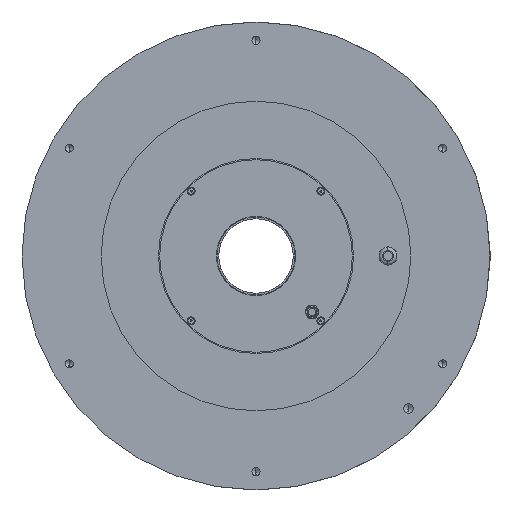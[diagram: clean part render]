
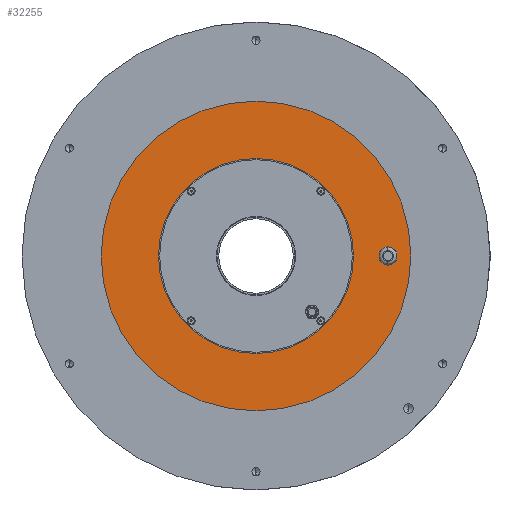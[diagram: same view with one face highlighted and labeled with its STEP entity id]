
A CAD part, front view. The second image highlights one B-rep face of the part: STEP entity #32255.
In plain terms, the highlighted planar face has unit normal (0, -1, 0).
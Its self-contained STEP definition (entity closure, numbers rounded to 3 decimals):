
#48 = ORIENTED_EDGE ( 'NONE', *, *, #6067, .T. ) ;
#1209 = AXIS2_PLACEMENT_3D ( 'NONE', #29348, #10394, #26540 ) ;
#1541 = VERTEX_POINT ( 'NONE', #9095 ) ;
#3764 = FACE_OUTER_BOUND ( 'NONE', #4735, .T. ) ;
#4438 = PLANE ( 'NONE',  #31828 ) ;
#4735 = EDGE_LOOP ( 'NONE', ( #13798, #48 ) ) ;
#4828 = EDGE_CURVE ( 'NONE', #6936, #25224, #9881, .T. ) ;
#5258 = VERTEX_POINT ( 'NONE', #18678 ) ;
#6067 = EDGE_CURVE ( 'NONE', #25224, #6936, #15235, .T. ) ;
#6936 = VERTEX_POINT ( 'NONE', #26119 ) ;
#6941 = DIRECTION ( 'NONE',  ( 0., 0., 1. ) ) ;
#8593 = DIRECTION ( 'NONE',  ( 0., 0., -1. ) ) ;
#8998 = EDGE_LOOP ( 'NONE', ( #32358, #19944 ) ) ;
#9095 = CARTESIAN_POINT ( 'NONE',  ( 0., 0., -85. ) ) ;
#9599 = CIRCLE ( 'NONE', #29220, 5.25 ) ;
#9881 = CIRCLE ( 'NONE', #29506, 135. ) ;
#10350 = DIRECTION ( 'NONE',  ( 0., 0., 1. ) ) ;
#10394 = DIRECTION ( 'NONE',  ( 0., -1., 0. ) ) ;
#11386 = ORIENTED_EDGE ( 'NONE', *, *, #20270, .T. ) ;
#13444 = AXIS2_PLACEMENT_3D ( 'NONE', #30322, #19829, #8593 ) ;
#13527 = AXIS2_PLACEMENT_3D ( 'NONE', #28505, #17835, #25369 ) ;
#13798 = ORIENTED_EDGE ( 'NONE', *, *, #4828, .T. ) ;
#13946 = CARTESIAN_POINT ( 'NONE',  ( 0., 0., 85. ) ) ;
#14165 = VERTEX_POINT ( 'NONE', #13946 ) ;
#14348 = DIRECTION ( 'NONE',  ( 0., -1., 0. ) ) ;
#14838 = FACE_BOUND ( 'NONE', #30673, .T. ) ;
#15235 = CIRCLE ( 'NONE', #1209, 135. ) ;
#17828 = FACE_BOUND ( 'NONE', #8998, .T. ) ;
#17835 = DIRECTION ( 'NONE',  ( 0., -1., 0. ) ) ;
#18244 = EDGE_CURVE ( 'NONE', #1541, #14165, #20152, .T. ) ;
#18678 = CARTESIAN_POINT ( 'NONE',  ( 115., 0., -5.25 ) ) ;
#19829 = DIRECTION ( 'NONE',  ( 0., -1., 0. ) ) ;
#19944 = ORIENTED_EDGE ( 'NONE', *, *, #25714, .F. ) ;
#20152 = CIRCLE ( 'NONE', #13444, 85. ) ;
#20270 = EDGE_CURVE ( 'NONE', #5258, #24108, #32035, .T. ) ;
#20310 = DIRECTION ( 'NONE',  ( 0., 0., -1. ) ) ;
#22789 = CARTESIAN_POINT ( 'NONE',  ( 115., 0., 5.25 ) ) ;
#22836 = CARTESIAN_POINT ( 'NONE',  ( 0., 0., 135. ) ) ;
#22914 = DIRECTION ( 'NONE',  ( 0., 1., 0. ) ) ;
#24108 = VERTEX_POINT ( 'NONE', #22789 ) ;
#25224 = VERTEX_POINT ( 'NONE', #22836 ) ;
#25362 = CARTESIAN_POINT ( 'NONE',  ( 85., 0., 0. ) ) ;
#25369 = DIRECTION ( 'NONE',  ( 0., 0., -1. ) ) ;
#25544 = DIRECTION ( 'NONE',  ( 0., 0., -1. ) ) ;
#25714 = EDGE_CURVE ( 'NONE', #14165, #1541, #31999, .T. ) ;
#26119 = CARTESIAN_POINT ( 'NONE',  ( 0., 0., -135. ) ) ;
#26540 = DIRECTION ( 'NONE',  ( 0., 0., -1. ) ) ;
#26994 = AXIS2_PLACEMENT_3D ( 'NONE', #33868, #31232, #10350 ) ;
#27658 = EDGE_CURVE ( 'NONE', #24108, #5258, #9599, .T. ) ;
#28495 = CARTESIAN_POINT ( 'NONE',  ( 115., 0., 0. ) ) ;
#28505 = CARTESIAN_POINT ( 'NONE',  ( 0., 0., 0. ) ) ;
#29220 = AXIS2_PLACEMENT_3D ( 'NONE', #28495, #22914, #6941 ) ;
#29348 = CARTESIAN_POINT ( 'NONE',  ( 0., 0., 0. ) ) ;
#29506 = AXIS2_PLACEMENT_3D ( 'NONE', #33607, #14348, #20310 ) ;
#30322 = CARTESIAN_POINT ( 'NONE',  ( 0., 0., 0. ) ) ;
#30673 = EDGE_LOOP ( 'NONE', ( #32338, #11386 ) ) ;
#31232 = DIRECTION ( 'NONE',  ( 0., 1., 0. ) ) ;
#31828 = AXIS2_PLACEMENT_3D ( 'NONE', #25362, #33239, #25544 ) ;
#31999 = CIRCLE ( 'NONE', #13527, 85. ) ;
#32035 = CIRCLE ( 'NONE', #26994, 5.25 ) ;
#32255 = ADVANCED_FACE ( 'NONE', ( #14838, #3764, #17828 ), #4438, .T. ) ;
#32338 = ORIENTED_EDGE ( 'NONE', *, *, #27658, .T. ) ;
#32358 = ORIENTED_EDGE ( 'NONE', *, *, #18244, .F. ) ;
#33239 = DIRECTION ( 'NONE',  ( 0., -1., 0. ) ) ;
#33607 = CARTESIAN_POINT ( 'NONE',  ( 0., 0., 0. ) ) ;
#33868 = CARTESIAN_POINT ( 'NONE',  ( 115., 0., 0. ) ) ;
